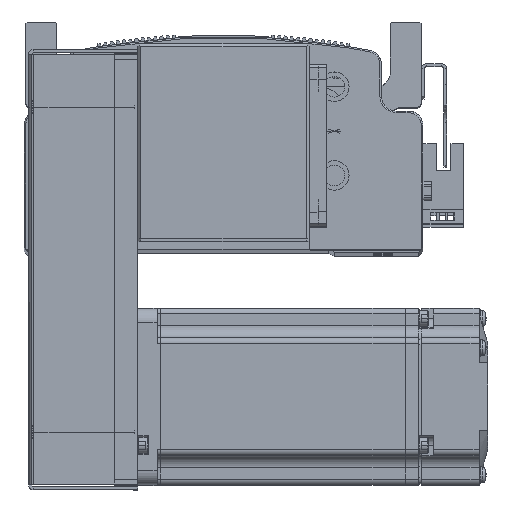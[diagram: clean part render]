
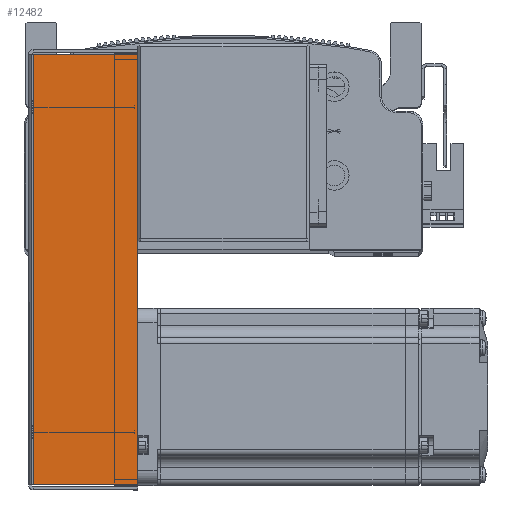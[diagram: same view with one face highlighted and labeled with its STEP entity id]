
A CAD part, top view. The second image highlights one B-rep face of the part: STEP entity #12482.
In plain terms, the highlighted planar face has unit normal (0, 0, 1) as drawn and (0, 0, -1) by its records, which use the part's own axes.
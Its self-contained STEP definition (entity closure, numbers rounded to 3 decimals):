
#8656 = EDGE_CURVE ( 'NONE', #83735, #83698, #61810, .T. ) ;
#8706 = EDGE_CURVE ( 'NONE', #83729, #83747, #62155, .T. ) ;
#8715 = EDGE_CURVE ( 'NONE', #83735, #83729, #62080, .T. ) ;
#8725 = EDGE_CURVE ( 'NONE', #83698, #83747, #62179, .T. ) ;
#12482 = ADVANCED_FACE ( 'NONE', ( #46215 ), #31432, .F. ) ;
#20653 = CARTESIAN_POINT ( 'NONE',  ( 72.793, 0.737, -34.5 ) ) ;
#20751 = CARTESIAN_POINT ( 'NONE',  ( -72.793, 0.737, -34.5 ) ) ;
#20755 = CARTESIAN_POINT ( 'NONE',  ( -72.793, 36., -34.5 ) ) ;
#20771 = CARTESIAN_POINT ( 'NONE',  ( 72.793, 36., -34.5 ) ) ;
#31432 = PLANE ( 'NONE',  #58805 ) ;
#31439 = CARTESIAN_POINT ( 'NONE',  ( 0., 0., -34.5 ) ) ;
#31473 = DIRECTION ( 'NONE',  ( 0., 0., 1. ) ) ;
#31474 = DIRECTION ( 'NONE',  ( 0., -1., 0. ) ) ;
#32343 = ORIENTED_EDGE ( 'NONE', *, *, #8715, .T. ) ;
#32467 = ORIENTED_EDGE ( 'NONE', *, *, #8656, .F. ) ;
#32499 = ORIENTED_EDGE ( 'NONE', *, *, #8725, .F. ) ;
#32571 = ORIENTED_EDGE ( 'NONE', *, *, #8706, .T. ) ;
#46215 = FACE_OUTER_BOUND ( 'NONE', #63988, .T. ) ;
#58805 = AXIS2_PLACEMENT_3D ( 'NONE', #31439, #31473, #31474 ) ;
#61810 = LINE ( 'NONE', #71033, #61813 ) ;
#61813 = VECTOR ( 'NONE', #71048, 1000. ) ;
#62080 = LINE ( 'NONE', #71252, #62137 ) ;
#62125 = VECTOR ( 'NONE', #71236, 1000. ) ;
#62137 = VECTOR ( 'NONE', #71253, 1000. ) ;
#62155 = LINE ( 'NONE', #71254, #62125 ) ;
#62161 = VECTOR ( 'NONE', #71288, 1000. ) ;
#62179 = LINE ( 'NONE', #71263, #62161 ) ;
#63988 = EDGE_LOOP ( 'NONE', ( #32467, #32343, #32571, #32499 ) ) ;
#71033 = CARTESIAN_POINT ( 'NONE',  ( 74.5, 0.737, -34.5 ) ) ;
#71048 = DIRECTION ( 'NONE',  ( 1., 0., 0. ) ) ;
#71236 = DIRECTION ( 'NONE',  ( 1., 0., 0. ) ) ;
#71252 = CARTESIAN_POINT ( 'NONE',  ( -72.793, 0., -34.5 ) ) ;
#71253 = DIRECTION ( 'NONE',  ( 0., 1., 0. ) ) ;
#71254 = CARTESIAN_POINT ( 'NONE',  ( 0., 36., -34.5 ) ) ;
#71263 = CARTESIAN_POINT ( 'NONE',  ( 72.793, 0., -34.5 ) ) ;
#71288 = DIRECTION ( 'NONE',  ( 0., 1., 0. ) ) ;
#83698 = VERTEX_POINT ( 'NONE', #20653 ) ;
#83729 = VERTEX_POINT ( 'NONE', #20755 ) ;
#83735 = VERTEX_POINT ( 'NONE', #20751 ) ;
#83747 = VERTEX_POINT ( 'NONE', #20771 ) ;
